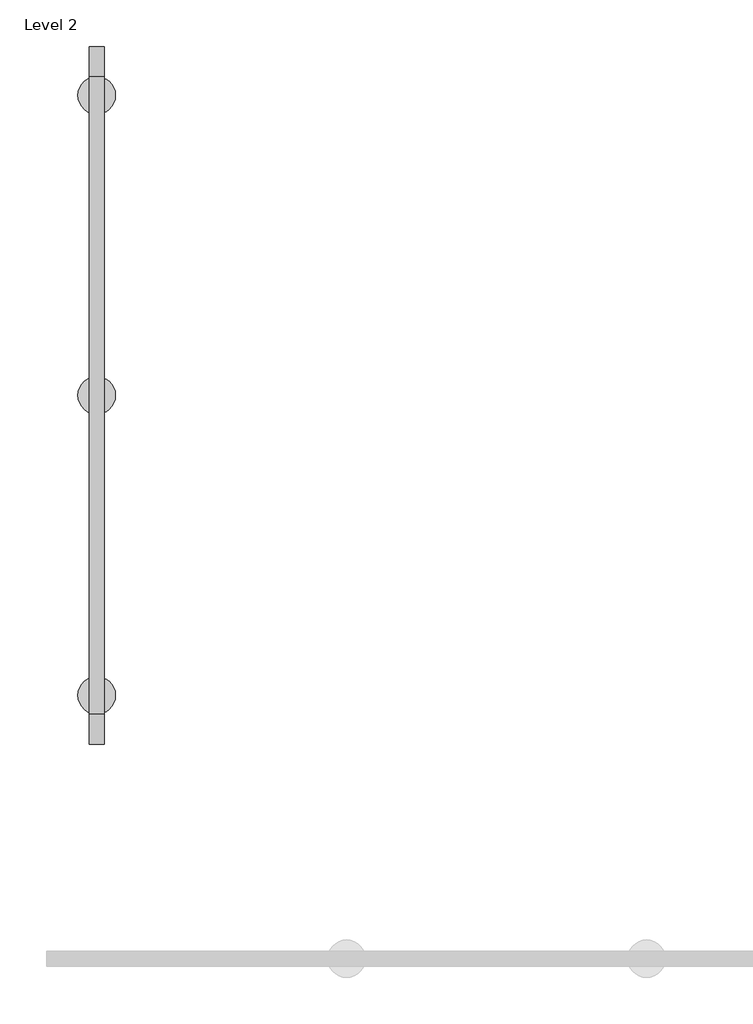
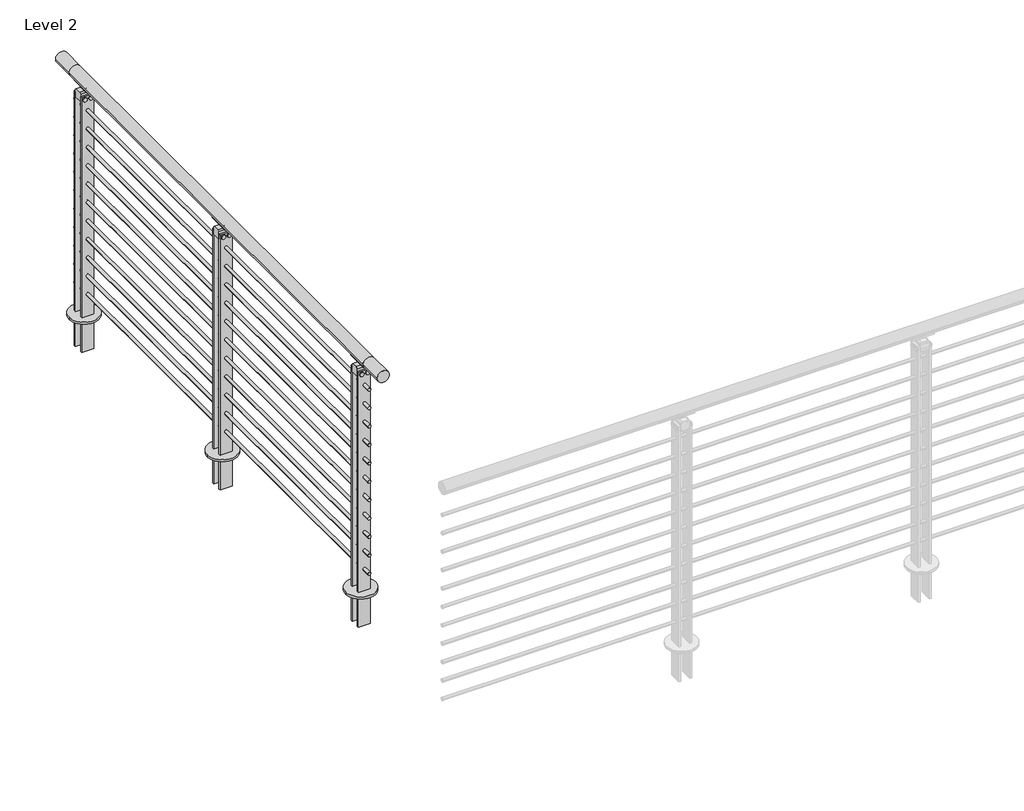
# One storey, part 16 of 31: 1 railing.
"""IFC4 building model written with IfcOpenShell, lengths in millimetres."""

import ifcopenshell
import ifcopenshell.guid

model = None  # the IFC model being written
_history = None  # IfcOwnerHistory: only IFC2X3 demands one
_inside = {}  # id of a spatial element -> (the spatial element, [elements in it])
_under = {}  # id of a project, library or spatial element -> (it, [spatial elements below it])
_declared = {}  # id of a project -> (the project, [libraries it declares])
_typed = {}  # id of a type object -> (the type object, [elements of that type])
_made_of = {}  # id of a material, layer set ... -> (it, [elements and type objects made of it])


def new_model(schema):
    """Start an empty IFC model of exactly this schema.

    Asked for "IFC4X3", IfcOpenShell would pick the latest addendum, in which some entities
    have other attributes; the version numbers below select the first issue.
    IFC2X3 requires an IfcOwnerHistory on every rooted entity: one is made here for all.
    """
    global model, _history
    if schema == "IFC4X3":
        model = ifcopenshell.file(schema_version=(4, 3, 0, 0))
    else:
        model = ifcopenshell.file(schema=schema)
    _inside.clear()
    _under.clear()
    _declared.clear()
    _typed.clear()
    _made_of.clear()
    _history = None
    if model.schema == "IFC2X3":
        org = make("IfcOrganization", Name="unknown")
        user = make(
            "IfcPersonAndOrganization",
            ThePerson=make("IfcPerson", FamilyName="unknown"),
            TheOrganization=org,
        )
        app = make(
            "IfcApplication",
            ApplicationDeveloper=org,
            Version="unknown",
            ApplicationFullName="unknown",
            ApplicationIdentifier="unknown",
        )
        _history = make(
            "IfcOwnerHistory",
            OwningUser=user,
            OwningApplication=app,
            ChangeAction="ADDED",
            CreationDate=0,
        )
    return model


def make(cls, **values):
    """One entity of the class cls with the attributes given. An attribute that is None is left unset."""
    return model.create_entity(
        cls, **{name: value for name, value in values.items() if value is not None}
    )


def rooted(cls, **values):
    """An entity with a GlobalId (a new one), such as an element, a storey or a relation."""
    return make(cls, GlobalId=ifcopenshell.guid.new(), OwnerHistory=_history, **values)


def si_unit(unit_type, name, prefix=None):
    """IfcSIUnit, for example si_unit("LENGTHUNIT", "METRE", prefix="MILLI")."""
    return make("IfcSIUnit", UnitType=unit_type, Prefix=prefix, Name=name)


def assignment(units):
    """IfcUnitAssignment: the units of a project."""
    return None if units is None else make("IfcUnitAssignment", Units=units)


def point(xyz):
    """IfcCartesianPoint."""
    return None if xyz is None else make("IfcCartesianPoint", Coordinates=xyz)


def direction(xyz):
    """IfcDirection."""
    return None if xyz is None else make("IfcDirection", DirectionRatios=xyz)


def frame(location, z_axis=None, x_axis=None):
    """IfcAxis2Placement3D, a coordinate frame: its origin and axes. An axis left out is left unset."""
    return make(
        "IfcAxis2Placement3D",
        Location=point(location),
        Axis=direction(z_axis),
        RefDirection=direction(x_axis),
    )


def frame_2d(location, x_axis=None):
    """IfcAxis2Placement2D, a coordinate frame in the plane: its origin and x axis."""
    return make(
        "IfcAxis2Placement2D", Location=point(location), RefDirection=direction(x_axis)
    )


def origin():
    """The frame at (0, 0, 0) with its axes left unset."""
    return frame((0.0, 0.0, 0.0))


def place(relative_to, where):
    """IfcLocalPlacement: puts the frame where relative to a parent placement (None: the world)."""
    return make(
        "IfcLocalPlacement", PlacementRelTo=relative_to, RelativePlacement=where
    )


def context(
    kind, dimensions, precision=None, world=None, true_north=None, identifier=None
):
    """IfcGeometricRepresentationContext, for example the 3D "Model" context."""
    return make(
        "IfcGeometricRepresentationContext",
        ContextIdentifier=identifier,
        ContextType=kind,
        CoordinateSpaceDimension=dimensions,
        Precision=precision,
        WorldCoordinateSystem=world,
        TrueNorth=true_north,
    )


def project(units=None, contexts=None):
    """IfcProject with its units and contexts."""
    return rooted(
        "IfcProject",
        Name="project",
        RepresentationContexts=contexts,
        UnitsInContext=assignment(units),
    )


def spatial(cls, under=None, at=None, **own):
    """A site, building, storey or space (cls), placed at a placement, below another one or the project."""
    s = rooted(cls, ObjectPlacement=at, **own)
    if under is not None:
        _under.setdefault(under.id(), (under, []))[1].append(s)
    return s


def polyline(points):
    """IfcPolyline through the points."""
    return make("IfcPolyline", Points=[point(p) for p in points])


def circle_curve(where, radius):
    """IfcCircle in the frame where."""
    return make("IfcCircle", Position=where, Radius=radius)


def trimmed(basis, trim1, trim2, sense, master):
    """IfcTrimmedCurve: the piece of a basis curve between two trims."""
    return make(
        "IfcTrimmedCurve",
        BasisCurve=basis,
        Trim1=trim1,
        Trim2=trim2,
        SenseAgreement=sense,
        MasterRepresentation=master,
    )


def segment(curve, same_sense, transition):
    """IfcCompositeCurveSegment."""
    return make(
        "IfcCompositeCurveSegment",
        Transition=transition,
        SameSense=same_sense,
        ParentCurve=curve,
    )


def composite_curve(segments, self_intersect=None):
    """IfcCompositeCurve: segments joined end to end."""
    return make("IfcCompositeCurve", Segments=segments, SelfIntersect=self_intersect)


def outline(outer, holes=None, kind="AREA"):
    """IfcArbitraryClosedProfileDef: a profile drawn as a closed curve; with holes, ...WithVoids."""
    if holes is None:
        return make("IfcArbitraryClosedProfileDef", ProfileType=kind, OuterCurve=outer)
    return make(
        "IfcArbitraryProfileDefWithVoids",
        ProfileType=kind,
        OuterCurve=outer,
        InnerCurves=holes,
    )


def extrude(swept, where, along, depth):
    """IfcExtrudedAreaSolid: the profile swept, set in the frame where, extruded along a direction by depth."""
    return make(
        "IfcExtrudedAreaSolid",
        SweptArea=swept,
        Position=where,
        ExtrudedDirection=direction(along),
        Depth=depth,
    )


def shape(context_of_items, identifier, shape_type, items):
    """IfcShapeRepresentation: the items that make up one representation, for example the "Body"."""
    return make(
        "IfcShapeRepresentation",
        ContextOfItems=context_of_items,
        RepresentationIdentifier=identifier,
        RepresentationType=shape_type,
        Items=items,
    )


def made_of(thing, what):
    """Note that an element or type object is made of a material, layer set ...; save() writes the relation."""
    if what is not None:
        _made_of.setdefault(what.id(), (what, []))[1].append(thing)
    return thing


def element(
    cls,
    number,
    at=None,
    inside=None,
    cuts=None,
    type_object=None,
    material=None,
    context=None,
    identifier="Body",
    shape_type=None,
    held_by="IfcProductDefinitionShape",
    body=None,
    shapes=None,
    **own,
):
    """One element of the class cls, such as IfcWall. Its Tag is "e" and its number.

    at: its placement. inside: the storey or other place that contains it. cuts: it is an
    opening in that element (IfcRelVoidsElement). A single representation is given by context,
    identifier, shape_type and body (its items); several are given by shapes. held_by: the class
    of the entity that holds the representations. save() writes the other relations.
    """
    e = rooted(cls, Tag="e%d" % number, ObjectPlacement=at, **own)
    if body is not None:
        shapes = [shape(context, identifier, shape_type, body)]
    if shapes is not None:
        e.Representation = make(held_by, Representations=shapes)
    if inside is not None:
        _inside.setdefault(inside.id(), (inside, []))[1].append(e)
    if cuts is not None:
        rooted(
            "IfcRelVoidsElement", RelatingBuildingElement=cuts, RelatedOpeningElement=e
        )
    if type_object is not None:
        _typed.setdefault(type_object.id(), (type_object, []))[1].append(e)
    return made_of(e, material)


def aggregate(whole, parts):
    """IfcRelAggregates: a whole, such as a stair, and the parts it consists of."""
    return rooted("IfcRelAggregates", RelatingObject=whole, RelatedObjects=parts)


def save(model, path):
    """Write the relations noted so far, then the file.

    IfcRelAggregates (storeys below a building ...), IfcRelContainedInSpatialStructure (elements
    in a storey), IfcRelDefinesByType, IfcRelAssociatesMaterial and IfcRelDeclares: one each for
    every whole, place, type object, material and project.
    """
    for whole, parts in _under.values():
        aggregate(whole, parts)
    for where, things in _inside.values():
        rooted(
            "IfcRelContainedInSpatialStructure",
            RelatedElements=things,
            RelatingStructure=where,
        )
    for kind, things in _typed.values():
        rooted("IfcRelDefinesByType", RelatedObjects=things, RelatingType=kind)
    for what, things in _made_of.values():
        rooted("IfcRelAssociatesMaterial", RelatedObjects=things, RelatingMaterial=what)
    for by, libraries in _declared.values():
        rooted("IfcRelDeclares", RelatingContext=by, RelatedDefinitions=libraries)
    model.write(path)


def plane_surface(at):
    """IfcPlane: the flat surface through the origin of the frame at, square to its z axis."""
    return make("IfcPlane", Position=at)


def cylinder_surface(at, radius):
    """IfcCylindricalSurface: all points at the distance radius from the z axis of the frame at."""
    return make("IfcCylindricalSurface", Position=at, Radius=radius)


def revolved_surface(curve, axis_point, axis_direction):
    """IfcSurfaceOfRevolution: the curve turned about the line through axis_point along axis_direction."""
    return make(
        "IfcSurfaceOfRevolution",
        SweptCurve=make("IfcArbitraryOpenProfileDef", ProfileType="CURVE", Curve=curve),
        AxisPosition=make("IfcAxis1Placement", Location=point(axis_point), Axis=direction(axis_direction)),
    )


def advanced_brep(points, edges, surfaces, faces):
    """IfcAdvancedBrep: a solid bounded by faces that lie on surfaces and meet in shared edges.

    An edge is (start, end): straight between two places in points (the first is 0);
    or (start, end, curve); or (start, end, curve, False) where it runs against its curve.
    A face is (place in surfaces, loops), or (place, loops, False) where it looks against
    its surface's normal. A loop lists edges by number (the first is 1), with a minus sign
    where the edge is run from its end to its start. The first loop is the outer one.
    """
    corners = [point(p) for p in points]
    vertices = [make("IfcVertexPoint", VertexGeometry=c) for c in corners]
    made = []
    for start, end, *more in edges:
        made.append(
            make(
                "IfcEdgeCurve",
                EdgeStart=vertices[start],
                EdgeEnd=vertices[end],
                EdgeGeometry=more[0] if more else make("IfcPolyline", Points=[corners[start], corners[end]]),
                SameSense=more[1] if len(more) > 1 else True,
            )
        )
    hull = []
    for where, loops, *sense in faces:
        bounds = []
        for j, loop in enumerate(loops):
            ring = [make("IfcOrientedEdge", EdgeElement=made[abs(k) - 1], Orientation=k > 0) for k in loop]
            bounds.append(
                make(
                    "IfcFaceOuterBound" if j == 0 else "IfcFaceBound",
                    Bound=make("IfcEdgeLoop", EdgeList=ring),
                    Orientation=True,
                )
            )
        hull.append(make("IfcAdvancedFace", Bounds=bounds, FaceSurface=surfaces[where], SameSense=sense[0] if sense else True))
    return make("IfcAdvancedBrep", Outer=make("IfcClosedShell", CfsFaces=hull))


model = new_model("IFC4")

# Units and contexts
model_context = context("Model", 3, world=origin())
ifc_project = project(units=[si_unit("LENGTHUNIT", "METRE", prefix="MILLI")], contexts=[model_context])

# Site, building, storey
site = spatial("IfcSite", under=ifc_project)
building = spatial("IfcBuilding", under=site)
storey = spatial("IfcBuildingStorey", under=building, Name="Level 2", Elevation=3048.0)

# Railing
placement = place(None, origin())
element("IfcRailing", 1, ObjectType="VIVA-BLADE-Multiline-Core Mount-Straight", at=placement, inside=storey, context=model_context, shape_type="SolidModel", body=[
    advanced_brep(
    [(65907.3310647, -69208.8233194, 4102.1), (65856.5310647, -69208.8233194, 4102.1), (65907.3310647, -69107.2233194, 4102.1), (65856.5310647, -69107.2233194, 4102.1), (65907.3310647, -66948.2233194, 4102.1), (65856.5310647, -66948.2233194, 4102.1), (65907.3310647, -66846.6233194, 4102.1), (65856.5310647, -66846.6233194, 4102.1)],
    [
        (0, 1, circle_curve(frame((65881.9310647, -69208.8233194, 4102.1), z_axis=(0.0, -1.0, 0.0), x_axis=(-1.0, 0.0, 0.0)), 25.4)),
        (1, 0, circle_curve(frame((65881.9310647, -69208.8233194, 4102.1), z_axis=(0.0, -1.0, 0.0), x_axis=(-1.0, 0.0, 0.0)), 25.4)),
        (0, 2),
        (2, 3, circle_curve(frame((65881.9310647, -69107.2233194, 4102.1), z_axis=(0.0, -1.0, 0.0), x_axis=(-1.0, 0.0, 0.0)), 25.4)),
        (3, 1),
        (3, 2, circle_curve(frame((65881.9310647, -69107.2233194, 4102.1), z_axis=(0.0, -1.0, 0.0), x_axis=(-1.0, 0.0, 0.0)), 25.4)),
        (2, 4),
        (4, 5, circle_curve(frame((65881.9310647, -66948.2233194, 4102.1), z_axis=(0.0, -1.0, 0.0), x_axis=(-1.0, 0.0, 0.0)), 25.4)),
        (5, 3),
        (5, 4, circle_curve(frame((65881.9310647, -66948.2233194, 4102.1), z_axis=(0.0, -1.0, 0.0), x_axis=(-1.0, 0.0, 0.0)), 25.4)),
        (6, 7, circle_curve(frame((65881.9310647, -66846.6233194, 4102.1), z_axis=(0.0, 1.0, 0.0), x_axis=(-1.0, 0.0, 0.0)), 25.4)),
        (7, 6, circle_curve(frame((65881.9310647, -66846.6233194, 4102.1), z_axis=(0.0, 1.0, 0.0), x_axis=(-1.0, 0.0, 0.0)), 25.4)),
        (4, 6),
        (7, 5),
    ],
    [
        plane_surface(frame((65881.9310647, -69208.8233194, 4127.5), z_axis=(0.0, -1.0, 0.0), x_axis=(0.0, 0.0, 1.0))),
        cylinder_surface(frame((65881.9310647, -69208.8233194, 4102.1), z_axis=(0.0, -1.0, 0.0), x_axis=(-1.0, 0.0, 0.0)), 25.4),
        cylinder_surface(frame((65881.9310647, -69107.2233194, 4102.1), z_axis=(0.0, -1.0, 0.0), x_axis=(-1.0, 0.0, 0.0)), 25.4),
        plane_surface(frame((65881.9310647, -66846.6233194, 4127.5), z_axis=(0.0, 1.0, 0.0), x_axis=(0.0, 0.0, 1.0))),
        cylinder_surface(frame((65881.9310647, -66948.2233194, 4102.1), z_axis=(0.0, -1.0, 0.0), x_axis=(-1.0, 0.0, 0.0)), 25.4),
    ],
    [
        (0, [[1, 2]]),
        (1, [[-1, 3, 4, 5]]),
        (1, [[-2, -5, 6, -3]]),
        (2, [[-4, 7, 8, 9]]),
        (2, [[-6, -9, 10, -7]]),
        (3, [[11, 12]]),
        (4, [[-8, 13, -12, 14]]),
        (4, [[-10, -14, -11, -13]]),
    ],
),
    extrude(outline(composite_curve([segment(trimmed(circle_curve(frame_2d((3981.45, 65881.9310647)), 6.35), [point((3981.45, 65888.2810647))], [point((3981.45, 65875.5810647))], False, "CARTESIAN"), True, "CONTINUOUS"), segment(trimmed(circle_curve(frame_2d((3981.45, 65881.9310647)), 6.35), [point((3981.45, 65875.5810647))], [point((3981.45, 65888.2810647))], False, "CARTESIAN"), True, "CONTINUOUS")], self_intersect=False)), frame((0.0, -69107.2233194, 0.0), z_axis=(0.0, 1.0, 0.0), x_axis=(0.0, 0.0, 1.0)), (0.0, 0.0, 1.0), 2159.0),
    extrude(outline(composite_curve([segment(trimmed(circle_curve(frame_2d((3898.9, 65881.9310647)), 6.35), [point((3898.9, 65888.2810647))], [point((3898.9, 65875.5810647))], False, "CARTESIAN"), True, "CONTINUOUS"), segment(trimmed(circle_curve(frame_2d((3898.9, 65881.9310647)), 6.35), [point((3898.9, 65875.5810647))], [point((3898.9, 65888.2810647))], False, "CARTESIAN"), True, "CONTINUOUS")], self_intersect=False)), frame((0.0, -69107.2233194, 0.0), z_axis=(0.0, 1.0, 0.0), x_axis=(0.0, 0.0, 1.0)), (0.0, 0.0, 1.0), 2159.0),
    extrude(outline(composite_curve([segment(trimmed(circle_curve(frame_2d((3816.35, 65881.9310647)), 6.35), [point((3816.35, 65888.2810647))], [point((3816.35, 65875.5810647))], False, "CARTESIAN"), True, "CONTINUOUS"), segment(trimmed(circle_curve(frame_2d((3816.35, 65881.9310647)), 6.35), [point((3816.35, 65875.5810647))], [point((3816.35, 65888.2810647))], False, "CARTESIAN"), True, "CONTINUOUS")], self_intersect=False)), frame((0.0, -69107.2233194, 0.0), z_axis=(0.0, 1.0, 0.0), x_axis=(0.0, 0.0, 1.0)), (0.0, 0.0, 1.0), 2159.0),
    extrude(outline(composite_curve([segment(trimmed(circle_curve(frame_2d((3733.8, 65881.9310647)), 6.35), [point((3733.8, 65888.2810647))], [point((3733.8, 65875.5810647))], False, "CARTESIAN"), True, "CONTINUOUS"), segment(trimmed(circle_curve(frame_2d((3733.8, 65881.9310647)), 6.35), [point((3733.8, 65875.5810647))], [point((3733.8, 65888.2810647))], False, "CARTESIAN"), True, "CONTINUOUS")], self_intersect=False)), frame((0.0, -69107.2233194, 0.0), z_axis=(0.0, 1.0, 0.0), x_axis=(0.0, 0.0, 1.0)), (0.0, 0.0, 1.0), 2159.0),
    extrude(outline(composite_curve([segment(trimmed(circle_curve(frame_2d((3651.25, 65881.9310647)), 6.35), [point((3651.25, 65888.2810647))], [point((3651.25, 65875.5810647))], False, "CARTESIAN"), True, "CONTINUOUS"), segment(trimmed(circle_curve(frame_2d((3651.25, 65881.9310647)), 6.35), [point((3651.25, 65875.5810647))], [point((3651.25, 65888.2810647))], False, "CARTESIAN"), True, "CONTINUOUS")], self_intersect=False)), frame((0.0, -69107.2233194, 0.0), z_axis=(0.0, 1.0, 0.0), x_axis=(0.0, 0.0, 1.0)), (0.0, 0.0, 1.0), 2159.0),
    extrude(outline(composite_curve([segment(trimmed(circle_curve(frame_2d((3568.7, 65881.9310647)), 6.35), [point((3568.7, 65888.2810647))], [point((3568.7, 65875.5810647))], False, "CARTESIAN"), True, "CONTINUOUS"), segment(trimmed(circle_curve(frame_2d((3568.7, 65881.9310647)), 6.35), [point((3568.7, 65875.5810647))], [point((3568.7, 65888.2810647))], False, "CARTESIAN"), True, "CONTINUOUS")], self_intersect=False)), frame((0.0, -69107.2233194, 0.0), z_axis=(0.0, 1.0, 0.0), x_axis=(0.0, 0.0, 1.0)), (0.0, 0.0, 1.0), 2159.0),
    extrude(outline(composite_curve([segment(trimmed(circle_curve(frame_2d((3486.15, 65881.9310647)), 6.35), [point((3486.15, 65888.2810647))], [point((3486.15, 65875.5810647))], False, "CARTESIAN"), True, "CONTINUOUS"), segment(trimmed(circle_curve(frame_2d((3486.15, 65881.9310647)), 6.35), [point((3486.15, 65875.5810647))], [point((3486.15, 65888.2810647))], False, "CARTESIAN"), True, "CONTINUOUS")], self_intersect=False)), frame((0.0, -69107.2233194, 0.0), z_axis=(0.0, 1.0, 0.0), x_axis=(0.0, 0.0, 1.0)), (0.0, 0.0, 1.0), 2159.0),
    extrude(outline(composite_curve([segment(trimmed(circle_curve(frame_2d((3403.6, 65881.9310647)), 6.35), [point((3403.6, 65888.2810647))], [point((3403.6, 65875.5810647))], False, "CARTESIAN"), True, "CONTINUOUS"), segment(trimmed(circle_curve(frame_2d((3403.6, 65881.9310647)), 6.35), [point((3403.6, 65875.5810647))], [point((3403.6, 65888.2810647))], False, "CARTESIAN"), True, "CONTINUOUS")], self_intersect=False)), frame((0.0, -69107.2233194, 0.0), z_axis=(0.0, 1.0, 0.0), x_axis=(0.0, 0.0, 1.0)), (0.0, 0.0, 1.0), 2159.0),
    extrude(outline(composite_curve([segment(trimmed(circle_curve(frame_2d((3321.05, 65881.9310647)), 6.35), [point((3321.05, 65888.2810647))], [point((3321.05, 65875.5810647))], False, "CARTESIAN"), True, "CONTINUOUS"), segment(trimmed(circle_curve(frame_2d((3321.05, 65881.9310647)), 6.35), [point((3321.05, 65875.5810647))], [point((3321.05, 65888.2810647))], False, "CARTESIAN"), True, "CONTINUOUS")], self_intersect=False)), frame((0.0, -69107.2233194, 0.0), z_axis=(0.0, 1.0, 0.0), x_axis=(0.0, 0.0, 1.0)), (0.0, 0.0, 1.0), 2159.0),
    extrude(outline(composite_curve([segment(trimmed(circle_curve(frame_2d((3238.5, 65881.9310647)), 6.35), [point((3238.5, 65888.2810647))], [point((3238.5, 65875.5810647))], False, "CARTESIAN"), True, "CONTINUOUS"), segment(trimmed(circle_curve(frame_2d((3238.5, 65881.9310647)), 6.35), [point((3238.5, 65875.5810647))], [point((3238.5, 65888.2810647))], False, "CARTESIAN"), True, "CONTINUOUS")], self_intersect=False)), frame((0.0, -69107.2233194, 0.0), z_axis=(0.0, 1.0, 0.0), x_axis=(0.0, 0.0, 1.0)), (0.0, 0.0, 1.0), 2159.0),
    extrude(outline(composite_curve([segment(trimmed(circle_curve(frame_2d((3155.95, 65881.9310647)), 6.35), [point((3155.95, 65888.2810647))], [point((3155.95, 65875.5810647))], False, "CARTESIAN"), True, "CONTINUOUS"), segment(trimmed(circle_curve(frame_2d((3155.95, 65881.9310647)), 6.35), [point((3155.95, 65875.5810647))], [point((3155.95, 65888.2810647))], False, "CARTESIAN"), True, "CONTINUOUS")], self_intersect=False)), frame((0.0, -69107.2233194, 0.0), z_axis=(0.0, 1.0, 0.0), x_axis=(0.0, 0.0, 1.0)), (0.0, 0.0, 1.0), 2159.0),
    extrude(outline(polyline([(65907.3308614, -67038.7981551), (65856.5285368, -67038.7981551), (65856.5285368, -67030.7733194), (65907.3308614, -67030.7733194), (65907.3308614, -67038.7981551)])), frame((0.0, 0.0, 2901.95), z_axis=(0.0, 0.0, 1.0), x_axis=(1.0, 0.0, 0.0)), (0.0, 0.0, 1.0), 146.05),
    extrude(outline(polyline([(65907.3308614, -66992.6733574), (65856.5285368, -66992.6733574), (65856.5285368, -66984.6723574), (65907.3308614, -66984.6723574), (65907.3308614, -66992.6733574)])), frame((0.0, 0.0, 2901.95), z_axis=(0.0, 0.0, 1.0), x_axis=(1.0, 0.0, 0.0)), (0.0, 0.0, 1.0), 146.05),
    extrude(outline(composite_curve([segment(trimmed(circle_curve(frame_2d((65881.9310647, -67011.7352563)), 63.4988059), [point((65818.4322588, -67011.7352563))], [point((65945.4298707, -67011.7352563))], False, "CARTESIAN"), True, "CONTINUOUS"), segment(trimmed(circle_curve(frame_2d((65881.9310647, -67011.7352563)), 63.4988059), [point((65945.4298707, -67011.7352563))], [point((65818.4322588, -67011.7352563))], False, "CARTESIAN"), True, "CONTINUOUS")], self_intersect=False)), frame((0.0, 0.0, 3048.0), z_axis=(0.0, 0.0, 1.0), x_axis=(1.0, 0.0, 0.0)), (0.0, 0.0, 1.0), 9.525),
    advanced_brep(
    [(65894.6911884, -66966.4859194, 4080.0967655), (65898.5270858, -66966.4859194, 4075.707533), (65867.0101935, -66966.4859194, 4075.1267745), (65869.8191238, -66966.4859194, 4079.9535285), (65894.6911884, -67056.9607194, 4080.0967655), (65869.7321517, -67056.9607194, 4080.0018447), (65866.8964001, -67056.9607194, 4075.1893964), (65898.5270858, -67056.9607194, 4075.707533)],
    [
        (0, 1, circle_curve(frame((65896.238746, -66966.4859194, 4077.5784521), z_axis=(0.0, 1.0, 0.0), x_axis=(1.0, 0.0, 0.0)), 2.9558141)),
        (1, 2, circle_curve(frame((65882.2608486, -66966.4859194, 4102.9742164), z_axis=(0.0, 1.0, 0.0), x_axis=(1.0, 0.0, 0.0)), 31.75)),
        (2, 3, circle_curve(frame((65868.4874986, -66966.4859194, 4077.4993599), z_axis=(0.0, 1.0, 0.0), x_axis=(1.0, 0.0, 0.0)), 2.7949225)),
        (3, 0, circle_curve(frame((65882.1273855, -66966.4859194, 4102.2115898), z_axis=(0.0, -1.0, 0.0), x_axis=(1.0, 0.0, 0.0)), 25.4345159)),
        (4, 5, circle_curve(frame((65882.1273855, -67056.9607194, 4102.2115898), z_axis=(0.0, 1.0, 0.0), x_axis=(1.0, 0.0, 0.0)), 25.4345159)),
        (5, 6, circle_curve(frame((65868.4874986, -67056.9607194, 4077.4993599), z_axis=(0.0, -1.0, 0.0), x_axis=(1.0, 0.0, 0.0)), 2.7949225)),
        (6, 7, circle_curve(frame((65882.2608486, -67056.9607194, 4102.9742164), z_axis=(0.0, -1.0, 0.0), x_axis=(1.0, 0.0, 0.0)), 31.75)),
        (7, 4, circle_curve(frame((65896.238746, -67056.9607194, 4077.5784521), z_axis=(0.0, -1.0, 0.0), x_axis=(1.0, 0.0, 0.0)), 2.9558141)),
        (3, 5),
        (4, 0),
        (2, 6),
        (1, 7),
    ],
    [
        plane_surface(frame((65907.5619013, -66966.4859194, 4102.2115898), z_axis=(0.0, 1.0, 0.0), x_axis=(0.0, 0.0, -1.0))),
        plane_surface(frame((65907.5619013, -67056.9607194, 4102.2115898), z_axis=(0.0, -1.0, 0.0), x_axis=(0.0, 0.0, 1.0))),
        revolved_surface(polyline([(65907.5619014, -67056.9607194, 4102.2115898), (65907.5619014, -66966.4859194, 4102.2115898)]), (65882.1273855, -67056.9607194, 4102.2115898), (0.0, -1.0, 0.0)),
        cylinder_surface(frame((65868.4874986, -67056.9607194, 4077.4993599), z_axis=(0.0, 1.0, 0.0), x_axis=(1.0, 0.0, 0.0)), 2.7949225),
        cylinder_surface(frame((65882.2608486, -67056.9607194, 4102.9742164), z_axis=(0.0, 1.0, 0.0), x_axis=(1.0, 0.0, 0.0)), 31.75),
        cylinder_surface(frame((65896.238746, -67056.9607194, 4077.5784521), z_axis=(0.0, 1.0, 0.0), x_axis=(1.0, 0.0, 0.0)), 2.9558141),
    ],
    [
        (0, [[1, 2, 3, 4]]),
        (1, [[5, 6, 7, 8]]),
        (2, [[9, -5, 10, -4]]),
        (3, [[11, -6, -9, -3]]),
        (4, [[12, -7, -11, -2]]),
        (5, [[-10, -8, -12, -1]]),
    ],
),
    extrude(outline(composite_curve([segment(polyline([(-66999.0233194, 4062.4125), (-67024.4233194, 4062.4125)]), True, "CONTINUOUS"), segment(trimmed(circle_curve(frame_2d((-67038.7912343, 4062.4125)), 14.3679149), [point((-67024.4233194, 4062.4125))], [point((-67038.7912343, 4076.7804149))], True, "CARTESIAN"), True, "CONTINUOUS"), segment(polyline([(-67038.7912343, 4076.7804149), (-66984.6554045, 4076.7804149)]), True, "CONTINUOUS"), segment(trimmed(circle_curve(frame_2d((-66984.6554045, 4062.4125)), 14.3679149), [point((-66984.6554045, 4076.7804149))], [point((-66999.0233194, 4062.4125))], True, "CARTESIAN"), True, "CONTINUOUS")], self_intersect=False)), frame((65879.3910647, 0.0, 0.0), z_axis=(1.0, 0.0, 0.0), x_axis=(0.0, 1.0, 0.0)), (0.0, 0.0, 1.0), 5.08),
    extrude(outline(polyline([(65907.3308614, -67038.7981551), (65856.5285368, -67038.7981551), (65856.5285368, -67030.7733194), (65907.3308614, -67030.7733194), (65907.3308614, -67038.7981551)])), frame((0.0, 0.0, 3048.0), z_axis=(0.0, 0.0, 1.0), x_axis=(1.0, 0.0, 0.0)), (0.0, 0.0, 1.0), 996.95),
    extrude(outline(composite_curve([segment(trimmed(circle_curve(frame_2d((4034.0416929, 65869.2285878)), 8.89), [point((4034.0416929, 65860.3385878))], [point((4034.0416929, 65878.1185878))], False, "CARTESIAN"), True, "CONTINUOUS"), segment(trimmed(circle_curve(frame_2d((4034.0416929, 65869.2285878)), 8.89), [point((4034.0416929, 65878.1185878))], [point((4034.0416929, 65860.3385878))], False, "CARTESIAN"), True, "CONTINUOUS")], self_intersect=False)), frame((0.0, -67043.4733194, 0.0), z_axis=(0.0, 1.0, 0.0), x_axis=(0.0, 0.0, 1.0)), (0.0, 0.0, 1.0), 63.4880631),
    extrude(outline(composite_curve([segment(trimmed(circle_curve(frame_2d((4034.0416929, 65894.6284858)), 8.89), [point((4034.0416929, 65885.7384858))], [point((4034.0416929, 65903.5184858))], False, "CARTESIAN"), True, "CONTINUOUS"), segment(trimmed(circle_curve(frame_2d((4034.0416929, 65894.6284858)), 8.89), [point((4034.0416929, 65903.5184858))], [point((4034.0416929, 65885.7384858))], False, "CARTESIAN"), True, "CONTINUOUS")], self_intersect=False)), frame((0.0, -67043.4733194, 0.0), z_axis=(0.0, 1.0, 0.0), x_axis=(0.0, 0.0, 1.0)), (0.0, 0.0, 1.0), 63.4880631),
    extrude(outline(polyline([(-67030.7733194, 4022.7123), (-67030.7733194, 4056.0625), (-67024.4233194, 4062.4125), (-66999.0233194, 4062.4125), (-66992.6733194, 4056.0625), (-66992.6733194, 4022.7123), (-67030.7733194, 4022.7123)])), frame((65856.5285368, 0.0, 0.0), z_axis=(1.0, 0.0, 0.0), x_axis=(0.0, 1.0, 0.0)), (0.0, 0.0, 1.0), 50.8025279),
    extrude(outline(polyline([(65907.3308614, -66992.6733574), (65856.5285368, -66992.6733574), (65856.5285368, -66984.6723574), (65907.3308614, -66984.6723574), (65907.3308614, -66992.6733574)])), frame((0.0, 0.0, 3048.0), z_axis=(0.0, 0.0, 1.0), x_axis=(1.0, 0.0, 0.0)), (0.0, 0.0, 1.0), 996.95),
    extrude(outline(polyline([(65907.3308614, -68054.7981551), (65856.5285368, -68054.7981551), (65856.5285368, -68046.7733194), (65907.3308614, -68046.7733194), (65907.3308614, -68054.7981551)])), frame((0.0, 0.0, 2901.95), z_axis=(0.0, 0.0, 1.0), x_axis=(1.0, 0.0, 0.0)), (0.0, 0.0, 1.0), 146.05),
    extrude(outline(polyline([(65907.3308614, -68008.6733574), (65856.5285368, -68008.6733574), (65856.5285368, -68000.6723574), (65907.3308614, -68000.6723574), (65907.3308614, -68008.6733574)])), frame((0.0, 0.0, 2901.95), z_axis=(0.0, 0.0, 1.0), x_axis=(1.0, 0.0, 0.0)), (0.0, 0.0, 1.0), 146.05),
    extrude(outline(composite_curve([segment(trimmed(circle_curve(frame_2d((65881.9310647, -68027.7352563)), 63.4988059), [point((65818.4322588, -68027.7352563))], [point((65945.4298707, -68027.7352563))], False, "CARTESIAN"), True, "CONTINUOUS"), segment(trimmed(circle_curve(frame_2d((65881.9310647, -68027.7352563)), 63.4988059), [point((65945.4298707, -68027.7352563))], [point((65818.4322588, -68027.7352563))], False, "CARTESIAN"), True, "CONTINUOUS")], self_intersect=False)), frame((0.0, 0.0, 3048.0), z_axis=(0.0, 0.0, 1.0), x_axis=(1.0, 0.0, 0.0)), (0.0, 0.0, 1.0), 9.525),
    advanced_brep(
    [(65894.6911884, -67982.4859194, 4080.0967655), (65898.5270858, -67982.4859194, 4075.707533), (65867.0101935, -67982.4859194, 4075.1267745), (65869.8191238, -67982.4859194, 4079.9535285), (65894.6911884, -68072.9607194, 4080.0967655), (65869.7321517, -68072.9607194, 4080.0018447), (65866.8964001, -68072.9607194, 4075.1893964), (65898.5270858, -68072.9607194, 4075.707533)],
    [
        (0, 1, circle_curve(frame((65896.238746, -67982.4859194, 4077.5784521), z_axis=(0.0, 1.0, 0.0), x_axis=(1.0, 0.0, 0.0)), 2.9558141)),
        (1, 2, circle_curve(frame((65882.2608486, -67982.4859194, 4102.9742164), z_axis=(0.0, 1.0, 0.0), x_axis=(1.0, 0.0, 0.0)), 31.75)),
        (2, 3, circle_curve(frame((65868.4874986, -67982.4859194, 4077.4993599), z_axis=(0.0, 1.0, 0.0), x_axis=(1.0, 0.0, 0.0)), 2.7949225)),
        (3, 0, circle_curve(frame((65882.1273855, -67982.4859194, 4102.2115898), z_axis=(0.0, -1.0, 0.0), x_axis=(1.0, 0.0, 0.0)), 25.4345159)),
        (4, 5, circle_curve(frame((65882.1273855, -68072.9607194, 4102.2115898), z_axis=(0.0, 1.0, 0.0), x_axis=(1.0, 0.0, 0.0)), 25.4345159)),
        (5, 6, circle_curve(frame((65868.4874986, -68072.9607194, 4077.4993599), z_axis=(0.0, -1.0, 0.0), x_axis=(1.0, 0.0, 0.0)), 2.7949225)),
        (6, 7, circle_curve(frame((65882.2608486, -68072.9607194, 4102.9742164), z_axis=(0.0, -1.0, 0.0), x_axis=(1.0, 0.0, 0.0)), 31.75)),
        (7, 4, circle_curve(frame((65896.238746, -68072.9607194, 4077.5784521), z_axis=(0.0, -1.0, 0.0), x_axis=(1.0, 0.0, 0.0)), 2.9558141)),
        (3, 5),
        (4, 0),
        (2, 6),
        (1, 7),
    ],
    [
        plane_surface(frame((65907.5619013, -67982.4859194, 4102.2115898), z_axis=(0.0, 1.0, 0.0), x_axis=(0.0, 0.0, -1.0))),
        plane_surface(frame((65907.5619013, -68072.9607194, 4102.2115898), z_axis=(0.0, -1.0, 0.0), x_axis=(0.0, 0.0, 1.0))),
        revolved_surface(polyline([(65907.5619014, -68072.9607194, 4102.2115898), (65907.5619014, -67982.4859194, 4102.2115898)]), (65882.1273855, -68072.9607194, 4102.2115898), (0.0, -1.0, 0.0)),
        cylinder_surface(frame((65868.4874986, -68072.9607194, 4077.4993599), z_axis=(0.0, 1.0, 0.0), x_axis=(1.0, 0.0, 0.0)), 2.7949225),
        cylinder_surface(frame((65882.2608486, -68072.9607194, 4102.9742164), z_axis=(0.0, 1.0, 0.0), x_axis=(1.0, 0.0, 0.0)), 31.75),
        cylinder_surface(frame((65896.238746, -68072.9607194, 4077.5784521), z_axis=(0.0, 1.0, 0.0), x_axis=(1.0, 0.0, 0.0)), 2.9558141),
    ],
    [
        (0, [[1, 2, 3, 4]]),
        (1, [[5, 6, 7, 8]]),
        (2, [[9, -5, 10, -4]]),
        (3, [[11, -6, -9, -3]]),
        (4, [[12, -7, -11, -2]]),
        (5, [[-10, -8, -12, -1]]),
    ],
),
    extrude(outline(composite_curve([segment(polyline([(-68015.0233194, 4062.4125), (-68040.4233194, 4062.4125)]), True, "CONTINUOUS"), segment(trimmed(circle_curve(frame_2d((-68054.7912343, 4062.4125)), 14.3679149), [point((-68040.4233194, 4062.4125))], [point((-68054.7912343, 4076.7804149))], True, "CARTESIAN"), True, "CONTINUOUS"), segment(polyline([(-68054.7912343, 4076.7804149), (-68000.6554045, 4076.7804149)]), True, "CONTINUOUS"), segment(trimmed(circle_curve(frame_2d((-68000.6554045, 4062.4125)), 14.3679149), [point((-68000.6554045, 4076.7804149))], [point((-68015.0233194, 4062.4125))], True, "CARTESIAN"), True, "CONTINUOUS")], self_intersect=False)), frame((65879.3910647, 0.0, 0.0), z_axis=(1.0, 0.0, 0.0), x_axis=(0.0, 1.0, 0.0)), (0.0, 0.0, 1.0), 5.08),
    extrude(outline(polyline([(65907.3308614, -68054.7981551), (65856.5285368, -68054.7981551), (65856.5285368, -68046.7733194), (65907.3308614, -68046.7733194), (65907.3308614, -68054.7981551)])), frame((0.0, 0.0, 3048.0), z_axis=(0.0, 0.0, 1.0), x_axis=(1.0, 0.0, 0.0)), (0.0, 0.0, 1.0), 996.95),
    extrude(outline(composite_curve([segment(trimmed(circle_curve(frame_2d((4034.0416929, 65869.2285878)), 8.89), [point((4034.0416929, 65860.3385878))], [point((4034.0416929, 65878.1185878))], False, "CARTESIAN"), True, "CONTINUOUS"), segment(trimmed(circle_curve(frame_2d((4034.0416929, 65869.2285878)), 8.89), [point((4034.0416929, 65878.1185878))], [point((4034.0416929, 65860.3385878))], False, "CARTESIAN"), True, "CONTINUOUS")], self_intersect=False)), frame((0.0, -68059.4733194, 0.0), z_axis=(0.0, 1.0, 0.0), x_axis=(0.0, 0.0, 1.0)), (0.0, 0.0, 1.0), 63.4880631),
    extrude(outline(composite_curve([segment(trimmed(circle_curve(frame_2d((4034.0416929, 65894.6284858)), 8.89), [point((4034.0416929, 65885.7384858))], [point((4034.0416929, 65903.5184858))], False, "CARTESIAN"), True, "CONTINUOUS"), segment(trimmed(circle_curve(frame_2d((4034.0416929, 65894.6284858)), 8.89), [point((4034.0416929, 65903.5184858))], [point((4034.0416929, 65885.7384858))], False, "CARTESIAN"), True, "CONTINUOUS")], self_intersect=False)), frame((0.0, -68059.4733194, 0.0), z_axis=(0.0, 1.0, 0.0), x_axis=(0.0, 0.0, 1.0)), (0.0, 0.0, 1.0), 63.4880631),
    extrude(outline(polyline([(-68046.7733194, 4022.7123), (-68046.7733194, 4056.0625), (-68040.4233194, 4062.4125), (-68015.0233194, 4062.4125), (-68008.6733194, 4056.0625), (-68008.6733194, 4022.7123), (-68046.7733194, 4022.7123)])), frame((65856.5285368, 0.0, 0.0), z_axis=(1.0, 0.0, 0.0), x_axis=(0.0, 1.0, 0.0)), (0.0, 0.0, 1.0), 50.8025279),
    extrude(outline(polyline([(65907.3308614, -68008.6733574), (65856.5285368, -68008.6733574), (65856.5285368, -68000.6723574), (65907.3308614, -68000.6723574), (65907.3308614, -68008.6733574)])), frame((0.0, 0.0, 3048.0), z_axis=(0.0, 0.0, 1.0), x_axis=(1.0, 0.0, 0.0)), (0.0, 0.0, 1.0), 996.95),
    extrude(outline(polyline([(65907.3308614, -69070.7981551), (65856.5285368, -69070.7981551), (65856.5285368, -69062.7733194), (65907.3308614, -69062.7733194), (65907.3308614, -69070.7981551)])), frame((0.0, 0.0, 2901.95), z_axis=(0.0, 0.0, 1.0), x_axis=(1.0, 0.0, 0.0)), (0.0, 0.0, 1.0), 146.05),
    extrude(outline(polyline([(65907.3308614, -69024.6733574), (65856.5285368, -69024.6733574), (65856.5285368, -69016.6723574), (65907.3308614, -69016.6723574), (65907.3308614, -69024.6733574)])), frame((0.0, 0.0, 2901.95), z_axis=(0.0, 0.0, 1.0), x_axis=(1.0, 0.0, 0.0)), (0.0, 0.0, 1.0), 146.05),
    extrude(outline(composite_curve([segment(trimmed(circle_curve(frame_2d((65881.9310647, -69043.7352563)), 63.4988059), [point((65818.4322588, -69043.7352563))], [point((65945.4298707, -69043.7352563))], False, "CARTESIAN"), True, "CONTINUOUS"), segment(trimmed(circle_curve(frame_2d((65881.9310647, -69043.7352563)), 63.4988059), [point((65945.4298707, -69043.7352563))], [point((65818.4322588, -69043.7352563))], False, "CARTESIAN"), True, "CONTINUOUS")], self_intersect=False)), frame((0.0, 0.0, 3048.0), z_axis=(0.0, 0.0, 1.0), x_axis=(1.0, 0.0, 0.0)), (0.0, 0.0, 1.0), 9.525),
    advanced_brep(
    [(65894.6911884, -68998.4859194, 4080.0967655), (65898.5270858, -68998.4859194, 4075.707533), (65867.0101935, -68998.4859194, 4075.1267745), (65869.8191238, -68998.4859194, 4079.9535285), (65894.6911884, -69088.9607194, 4080.0967655), (65869.7321517, -69088.9607194, 4080.0018447), (65866.8964001, -69088.9607194, 4075.1893964), (65898.5270858, -69088.9607194, 4075.707533)],
    [
        (0, 1, circle_curve(frame((65896.238746, -68998.4859194, 4077.5784521), z_axis=(0.0, 1.0, 0.0), x_axis=(1.0, 0.0, 0.0)), 2.9558141)),
        (1, 2, circle_curve(frame((65882.2608486, -68998.4859194, 4102.9742164), z_axis=(0.0, 1.0, 0.0), x_axis=(1.0, 0.0, 0.0)), 31.75)),
        (2, 3, circle_curve(frame((65868.4874986, -68998.4859194, 4077.4993599), z_axis=(0.0, 1.0, 0.0), x_axis=(1.0, 0.0, 0.0)), 2.7949225)),
        (3, 0, circle_curve(frame((65882.1273855, -68998.4859194, 4102.2115898), z_axis=(0.0, -1.0, 0.0), x_axis=(1.0, 0.0, 0.0)), 25.4345159)),
        (4, 5, circle_curve(frame((65882.1273855, -69088.9607194, 4102.2115898), z_axis=(0.0, 1.0, 0.0), x_axis=(1.0, 0.0, 0.0)), 25.4345159)),
        (5, 6, circle_curve(frame((65868.4874986, -69088.9607194, 4077.4993599), z_axis=(0.0, -1.0, 0.0), x_axis=(1.0, 0.0, 0.0)), 2.7949225)),
        (6, 7, circle_curve(frame((65882.2608486, -69088.9607194, 4102.9742164), z_axis=(0.0, -1.0, 0.0), x_axis=(1.0, 0.0, 0.0)), 31.75)),
        (7, 4, circle_curve(frame((65896.238746, -69088.9607194, 4077.5784521), z_axis=(0.0, -1.0, 0.0), x_axis=(1.0, 0.0, 0.0)), 2.9558141)),
        (3, 5),
        (4, 0),
        (2, 6),
        (1, 7),
    ],
    [
        plane_surface(frame((65907.5619013, -68998.4859194, 4102.2115898), z_axis=(0.0, 1.0, 0.0), x_axis=(0.0, 0.0, -1.0))),
        plane_surface(frame((65907.5619013, -69088.9607194, 4102.2115898), z_axis=(0.0, -1.0, 0.0), x_axis=(0.0, 0.0, 1.0))),
        revolved_surface(polyline([(65907.5619014, -69088.9607194, 4102.2115898), (65907.5619014, -68998.4859194, 4102.2115898)]), (65882.1273855, -69088.9607194, 4102.2115898), (0.0, -1.0, 0.0)),
        cylinder_surface(frame((65868.4874986, -69088.9607194, 4077.4993599), z_axis=(0.0, 1.0, 0.0), x_axis=(1.0, 0.0, 0.0)), 2.7949225),
        cylinder_surface(frame((65882.2608486, -69088.9607194, 4102.9742164), z_axis=(0.0, 1.0, 0.0), x_axis=(1.0, 0.0, 0.0)), 31.75),
        cylinder_surface(frame((65896.238746, -69088.9607194, 4077.5784521), z_axis=(0.0, 1.0, 0.0), x_axis=(1.0, 0.0, 0.0)), 2.9558141),
    ],
    [
        (0, [[1, 2, 3, 4]]),
        (1, [[5, 6, 7, 8]]),
        (2, [[9, -5, 10, -4]]),
        (3, [[11, -6, -9, -3]]),
        (4, [[12, -7, -11, -2]]),
        (5, [[-10, -8, -12, -1]]),
    ],
),
    extrude(outline(composite_curve([segment(polyline([(-69031.0233194, 4062.4125), (-69056.4233194, 4062.4125)]), True, "CONTINUOUS"), segment(trimmed(circle_curve(frame_2d((-69070.7912343, 4062.4125)), 14.3679149), [point((-69056.4233194, 4062.4125))], [point((-69070.7912343, 4076.7804149))], True, "CARTESIAN"), True, "CONTINUOUS"), segment(polyline([(-69070.7912343, 4076.7804149), (-69016.6554045, 4076.7804149)]), True, "CONTINUOUS"), segment(trimmed(circle_curve(frame_2d((-69016.6554045, 4062.4125)), 14.3679149), [point((-69016.6554045, 4076.7804149))], [point((-69031.0233194, 4062.4125))], True, "CARTESIAN"), True, "CONTINUOUS")], self_intersect=False)), frame((65879.3910647, 0.0, 0.0), z_axis=(1.0, 0.0, 0.0), x_axis=(0.0, 1.0, 0.0)), (0.0, 0.0, 1.0), 5.08),
    extrude(outline(polyline([(65907.3308614, -69070.7981551), (65856.5285368, -69070.7981551), (65856.5285368, -69062.7733194), (65907.3308614, -69062.7733194), (65907.3308614, -69070.7981551)])), frame((0.0, 0.0, 3048.0), z_axis=(0.0, 0.0, 1.0), x_axis=(1.0, 0.0, 0.0)), (0.0, 0.0, 1.0), 996.95),
    extrude(outline(composite_curve([segment(trimmed(circle_curve(frame_2d((4034.0416929, 65869.2285878)), 8.89), [point((4034.0416929, 65860.3385878))], [point((4034.0416929, 65878.1185878))], False, "CARTESIAN"), True, "CONTINUOUS"), segment(trimmed(circle_curve(frame_2d((4034.0416929, 65869.2285878)), 8.89), [point((4034.0416929, 65878.1185878))], [point((4034.0416929, 65860.3385878))], False, "CARTESIAN"), True, "CONTINUOUS")], self_intersect=False)), frame((0.0, -69075.4733194, 0.0), z_axis=(0.0, 1.0, 0.0), x_axis=(0.0, 0.0, 1.0)), (0.0, 0.0, 1.0), 63.4880631),
    extrude(outline(composite_curve([segment(trimmed(circle_curve(frame_2d((4034.0416929, 65894.6284858)), 8.89), [point((4034.0416929, 65885.7384858))], [point((4034.0416929, 65903.5184858))], False, "CARTESIAN"), True, "CONTINUOUS"), segment(trimmed(circle_curve(frame_2d((4034.0416929, 65894.6284858)), 8.89), [point((4034.0416929, 65903.5184858))], [point((4034.0416929, 65885.7384858))], False, "CARTESIAN"), True, "CONTINUOUS")], self_intersect=False)), frame((0.0, -69075.4733194, 0.0), z_axis=(0.0, 1.0, 0.0), x_axis=(0.0, 0.0, 1.0)), (0.0, 0.0, 1.0), 63.4880631),
    extrude(outline(polyline([(-69062.7733194, 4022.7123), (-69062.7733194, 4056.0625), (-69056.4233194, 4062.4125), (-69031.0233194, 4062.4125), (-69024.6733194, 4056.0625), (-69024.6733194, 4022.7123), (-69062.7733194, 4022.7123)])), frame((65856.5285368, 0.0, 0.0), z_axis=(1.0, 0.0, 0.0), x_axis=(0.0, 1.0, 0.0)), (0.0, 0.0, 1.0), 50.8025279),
    extrude(outline(polyline([(65907.3308614, -69024.6733574), (65856.5285368, -69024.6733574), (65856.5285368, -69016.6723574), (65907.3308614, -69016.6723574), (65907.3308614, -69024.6733574)])), frame((0.0, 0.0, 3048.0), z_axis=(0.0, 0.0, 1.0), x_axis=(1.0, 0.0, 0.0)), (0.0, 0.0, 1.0), 996.95),
])

save(model, "model.ifc")
